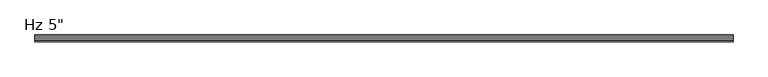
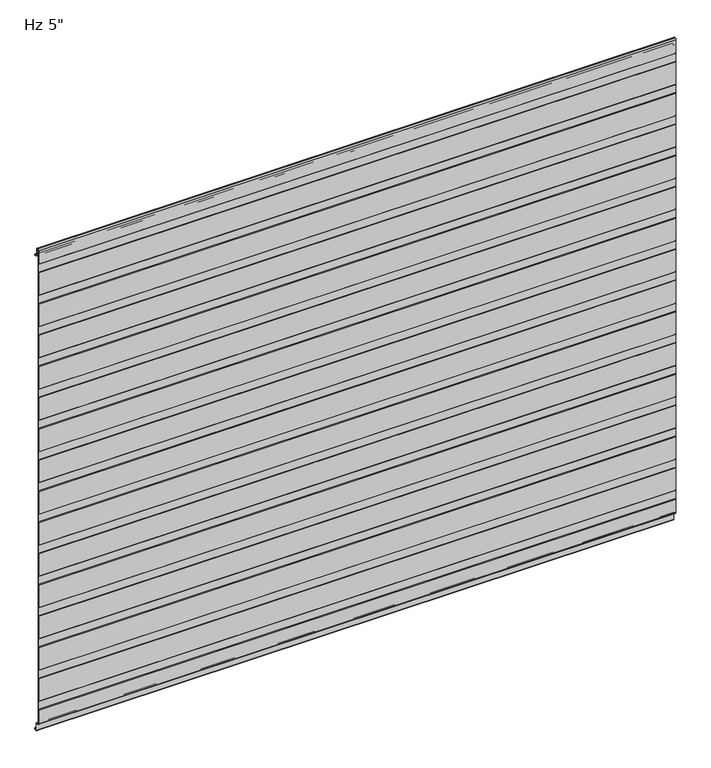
"""IFC4 building model written with IfcOpenShell, lengths in millimetres: plate geometry."""

from ifc_helpers import new_model, si_unit, frame, origin, place, context, project, spatial, polyline, circle_curve, source, transform, mapped, element, save
from ifc_brep_helpers import plane_surface, cylinder_surface, revolved_surface, advanced_brep


def plate_da2054d2(model_context):
    return source(origin(), model_context, "Body", "AdvancedBrep", [
        advanced_brep(
        [(-730.0, -127.0, 966.9508592), (-730.0, -127.0, 1021.5303137), (-730.0, -125.8088405, 1022.6028385), (-730.0, -125.8088405, 1041.5009546), (-730.0, -127.0, 1042.5734794), (-730.0, -127.0, 1097.152934), (-730.0, -125.8088405, 1098.2254588), (-730.0, -125.8088405, 1117.1235749), (-730.0, -126.9999956, 1118.1960958), (-730.0, -126.9999956, 1150.8100652), (-730.0, -124.0227271, 1153.7873337), (-730.0, -122.9806285, 1153.7873337), (-730.0, -120.00336, 1150.8100652), (-730.0, -120.00336, 1136.6216801), (-730.0, -118.4154834, 1135.0338036), (-730.0, -114.0950653, 1135.0338036), (-730.0, -112.5065979, 1133.3929042), (-730.0, -112.5065979, 1131.0482432), (-730.0, -113.5060718, 1131.0482432), (-730.0, -113.5060718, 1133.4253365), (-730.0, -114.0950653, 1134.0338037), (-730.0, -118.4154834, 1134.0338037), (-730.0, -121.00336, 1136.6216801), (-730.0, -121.00336, 1150.8100652), (-730.0, -122.9806285, 1152.7873337), (-730.0, -124.0227271, 1152.7873337), (-730.0, -125.9999956, 1150.8100652), (-730.0, -125.9999956, 1118.6385351), (-730.0, -124.8088405, 1117.5660142), (-730.0, -124.8088405, 1097.7830195), (-730.0, -126.0, 1096.7104947), (-730.0, -126.0, 1043.0159187), (-730.0, -124.8088405, 1041.9433939), (-730.0, -124.8088405, 1022.1603992), (-730.0, -126.0, 1021.0878744), (-730.0, -126.0, 967.3932985), (-730.0, -124.8088405, 966.3207736), (-730.0, -124.8088405, 946.537779), (-730.0, -126.0, 945.4652541), (-730.0, -126.0, 891.7706782), (-730.0, -124.8088405, 890.6981534), (-730.0, -124.8088405, 870.9151587), (-730.0, -126.0, 869.8426339), (-730.0, -126.0, 816.148058), (-730.0, -124.8088405, 815.0755331), (-730.0, -124.8088405, 795.2925384), (-730.0, -126.0, 794.2200136), (-730.0, -126.0, 740.5254377), (-730.0, -124.8088405, 739.4529129), (-730.0, -124.8088405, 719.6699182), (-730.0, -126.0, 718.5973933), (-730.0, -126.0, 664.9028174), (-730.0, -124.8088405, 663.8302926), (-730.0, -124.8088405, 644.0472979), (-730.0, -126.0, 642.9747731), (-730.0, -126.0, 589.2801972), (-730.0, -124.8088405, 588.2076723), (-730.0, -124.8088405, 568.4246776), (-730.0, -126.0, 567.3521528), (-730.0, -126.0, 513.6575769), (-730.0, -124.8088405, 512.5850521), (-730.0, -124.8088405, 492.8020574), (-730.0, -126.0, 491.7295325), (-730.0, -126.0, 438.0349566), (-730.0, -124.8088405, 436.9624318), (-730.0, -124.8088405, 417.1794371), (-730.0, -126.0, 416.1069123), (-730.0, -126.0, 362.4123364), (-730.0, -124.8088405, 361.3398115), (-730.0, -124.8088405, 341.5568169), (-730.0, -126.0, 340.484292), (-730.0, -126.0, 286.7897161), (-730.0, -124.8088405, 285.7171913), (-730.0, -124.8088405, 265.9341966), (-730.0, -126.0, 264.8616718), (-730.0, -126.0, 211.1670958), (-730.0, -124.8088405, 210.094571), (-730.0, -124.8088405, 190.3115763), (-730.0, -126.0, 189.2390515), (-730.0, -126.0, 135.5444756), (-730.0, -124.8088405, 134.4719507), (-730.0, -124.8088405, 114.6889561), (-730.0, -126.0, 113.6164312), (-730.0, -126.0, 59.9218553), (-730.0, -124.8088405, 58.8493305), (-730.0, -124.8088405, 39.0663358), (-730.0, -126.0, 37.993811), (-730.0, -126.0, 5.82722), (-730.0, -124.0227096, 3.8499526), (-730.0, -121.7308258, 3.8499526), (-730.0, -117.7535573, -0.1273159), (-730.0, -117.7535573, -15.7237419), (-730.0, -117.1656807, -16.3116185), (-730.0, -114.094132, -16.3116185), (-730.0, -113.5062555, -15.7237419), (-730.0, -113.5062555, -13.3687064), (-730.0, -112.5062555, -13.3687064), (-730.0, -112.5062555, -15.7237419), (-730.0, -114.094132, -17.3116185), (-730.0, -117.1656807, -17.3116185), (-730.0, -118.7535573, -15.7237419), (-730.0, -118.7535573, -0.1273159), (-730.0, -121.7308258, 2.8499526), (-730.0, -124.0227096, 2.8499526), (-730.0, -126.9999782, 5.8272193), (-730.0, -127.0, 38.4362503), (-730.0, -125.8088405, 39.5087751), (-730.0, -125.8088405, 58.4068912), (-730.0, -127.0, 59.479416), (-730.0, -127.0, 114.0588705), (-730.0, -125.8088405, 115.1313954), (-730.0, -125.8088405, 134.0295114), (-730.0, -127.0, 135.1020363), (-730.0, -127.0, 189.6814908), (-730.0, -125.8088405, 190.7540156), (-730.0, -125.8088405, 209.6521317), (-730.0, -127.0, 210.7246565), (-730.0, -127.0, 265.3041111), (-730.0, -125.8088405, 266.3766359), (-730.0, -125.8088405, 285.274752), (-730.0, -127.0, 286.3472768), (-730.0, -127.0, 340.9267313), (-730.0, -125.8088405, 341.9992562), (-730.0, -125.8088405, 360.8973722), (-730.0, -127.0, 361.9698971), (-730.0, -127.0, 416.5493516), (-730.0, -125.8088405, 417.6218764), (-730.0, -125.8088405, 436.5199925), (-730.0, -127.0, 437.5925173), (-730.0, -127.0, 492.1719719), (-730.0, -125.8088405, 493.2444967), (-730.0, -125.8088405, 512.1426127), (-730.0, -127.0, 513.2151376), (-730.0, -127.0, 567.7945921), (-730.0, -125.8088405, 568.867117), (-730.0, -125.8088405, 587.765233), (-730.0, -127.0, 588.8377578), (-730.0, -127.0, 643.4172124), (-730.0, -125.8088405, 644.4897372), (-730.0, -125.8088405, 663.3878533), (-730.0, -127.0, 664.4603781), (-730.0, -127.0, 719.0398327), (-730.0, -125.8088405, 720.1123575), (-730.0, -125.8088405, 739.0104735), (-730.0, -127.0, 740.0829984), (-730.0, -127.0, 794.6624529), (-730.0, -125.8088405, 795.7349778), (-730.0, -125.8088405, 814.6330938), (-730.0, -127.0, 815.7056186), (-730.0, -127.0, 870.2850732), (-730.0, -125.8088405, 871.357598), (-730.0, -125.8088405, 890.2557141), (-730.0, -127.0, 891.3282389), (-730.0, -127.0, 945.9076934), (-730.0, -125.8088405, 946.9802183), (-730.0, -125.8088405, 965.8783343), (730.0, -127.0, 966.9508592), (730.0, -125.8088405, 965.8783343), (730.0, -125.8088405, 946.9802183), (730.0, -127.0, 945.9076934), (730.0, -127.0, 891.3282389), (730.0, -125.8088405, 890.2557141), (730.0, -125.8088405, 871.357598), (730.0, -127.0, 870.2850732), (730.0, -127.0, 815.7056186), (730.0, -125.8088405, 814.6330938), (730.0, -125.8088405, 795.7349778), (730.0, -127.0, 794.6624529), (730.0, -127.0, 740.0829984), (730.0, -125.8088405, 739.0104735), (730.0, -125.8088405, 720.1123575), (730.0, -127.0, 719.0398327), (730.0, -127.0, 664.4603781), (730.0, -125.8088405, 663.3878533), (730.0, -125.8088405, 644.4897372), (730.0, -127.0, 643.4172124), (730.0, -127.0, 588.8377578), (730.0, -125.8088405, 587.765233), (730.0, -125.8088405, 568.867117), (730.0, -127.0, 567.7945921), (730.0, -127.0, 513.2151376), (730.0, -125.8088405, 512.1426127), (730.0, -125.8088405, 493.2444967), (730.0, -127.0, 492.1719719), (730.0, -127.0, 437.5925173), (730.0, -125.8088405, 436.5199925), (730.0, -125.8088405, 417.6218764), (730.0, -127.0, 416.5493516), (730.0, -127.0, 361.9698971), (730.0, -125.8088405, 360.8973722), (730.0, -125.8088405, 341.9992562), (730.0, -127.0, 340.9267313), (730.0, -127.0, 286.3472768), (730.0, -125.8088405, 285.274752), (730.0, -125.8088405, 266.3766359), (730.0, -127.0, 265.3041111), (730.0, -127.0, 210.7246565), (730.0, -125.8088405, 209.6521317), (730.0, -125.8088405, 190.7540156), (730.0, -127.0, 189.6814908), (730.0, -127.0, 135.1020363), (730.0, -125.8088405, 134.0295114), (730.0, -125.8088405, 115.1313954), (730.0, -127.0, 114.0588705), (730.0, -127.0, 59.479416), (730.0, -125.8088405, 58.4068912), (730.0, -125.8088405, 39.5087751), (730.0, -127.0, 38.4362503), (730.0, -127.0, 5.8272193), (730.0, -124.0227096, 2.8499526), (730.0, -121.7308258, 2.8499526), (730.0, -118.7535573, -0.1273159), (730.0, -118.7535573, -15.7237419), (730.0, -117.1656807, -17.3116185), (730.0, -114.094132, -17.3116185), (730.0, -112.5062555, -15.7237419), (730.0, -112.5062555, -13.3687064), (730.0, -113.5062555, -13.3687064), (730.0, -113.5062555, -15.7237419), (730.0, -114.094132, -16.3116185), (730.0, -117.1656807, -16.3116185), (730.0, -117.7535573, -15.7237419), (730.0, -117.7535573, -0.1273159), (730.0, -121.7308258, 3.8499526), (730.0, -124.0227096, 3.8499526), (730.0, -125.9999782, 5.82722), (730.0, -126.0, 37.993811), (730.0, -124.8088405, 39.0663358), (730.0, -124.8088405, 58.8493305), (730.0, -126.0, 59.9218553), (730.0, -126.0, 113.6164312), (730.0, -124.8088405, 114.6889561), (730.0, -124.8088405, 134.4719507), (730.0, -126.0, 135.5444756), (730.0, -126.0, 189.2390515), (730.0, -124.8088405, 190.3115763), (730.0, -124.8088405, 210.094571), (730.0, -126.0, 211.1670958), (730.0, -126.0, 264.8616718), (730.0, -124.8088405, 265.9341966), (730.0, -124.8088405, 285.7171913), (730.0, -126.0, 286.7897161), (730.0, -126.0, 340.484292), (730.0, -124.8088405, 341.5568169), (730.0, -124.8088405, 361.3398115), (730.0, -126.0, 362.4123364), (730.0, -126.0, 416.1069123), (730.0, -124.8088405, 417.1794371), (730.0, -124.8088405, 436.9624318), (730.0, -126.0, 438.0349566), (730.0, -126.0, 491.7295325), (730.0, -124.8088405, 492.8020574), (730.0, -124.8088405, 512.5850521), (730.0, -126.0, 513.6575769), (730.0, -126.0, 567.3521528), (730.0, -124.8088405, 568.4246776), (730.0, -124.8088405, 588.2076723), (730.0, -126.0, 589.2801972), (730.0, -126.0, 642.9747731), (730.0, -124.8088405, 644.0472979), (730.0, -124.8088405, 663.8302926), (730.0, -126.0, 664.9028174), (730.0, -126.0, 718.5973933), (730.0, -124.8088405, 719.6699182), (730.0, -124.8088405, 739.4529129), (730.0, -126.0, 740.5254377), (730.0, -126.0, 794.2200136), (730.0, -124.8088405, 795.2925384), (730.0, -124.8088405, 815.0755331), (730.0, -126.0, 816.148058), (730.0, -126.0, 869.8426339), (730.0, -124.8088405, 870.9151587), (730.0, -124.8088405, 890.6981534), (730.0, -126.0, 891.7706782), (730.0, -126.0, 945.4652541), (730.0, -124.8088405, 946.537779), (730.0, -124.8088405, 966.3207736), (730.0, -126.0, 967.3932985), (730.0, -126.0, 1021.0878744), (730.0, -124.8088405, 1022.1603992), (730.0, -124.8088405, 1041.9433939), (730.0, -126.0, 1043.0159187), (730.0, -126.0, 1096.7104947), (730.0, -124.8088405, 1097.7830195), (730.0, -124.8088405, 1117.5660142), (730.0, -125.9999956, 1118.6385351), (730.0, -125.9999956, 1150.8100652), (730.0, -124.0227271, 1152.7873337), (730.0, -122.9806285, 1152.7873337), (730.0, -121.00336, 1150.8100652), (730.0, -121.00336, 1136.6216801), (730.0, -118.4154834, 1134.0338036), (730.0, -114.0950653, 1134.0338037), (730.0, -113.5060718, 1133.4253365), (730.0, -113.5060718, 1131.0482432), (730.0, -112.5065979, 1131.0482432), (730.0, -112.5065979, 1133.3929042), (730.0, -114.0950653, 1135.0338037), (730.0, -118.4154834, 1135.0338036), (730.0, -120.00336, 1136.6216801), (730.0, -120.00336, 1150.8100652), (730.0, -122.9806285, 1153.7873337), (730.0, -124.0227271, 1153.7873337), (730.0, -126.9999956, 1150.8100652), (730.0, -126.9999956, 1118.1960958), (730.0, -125.8088405, 1117.1235749), (730.0, -125.8088405, 1098.2254588), (730.0, -127.0, 1097.152934), (730.0, -127.0, 1042.5734794), (730.0, -125.8088405, 1041.5009546), (730.0, -125.8088405, 1022.6028385), (730.0, -127.0, 1021.5303137)],
        [
            (0, 1),
            (1, 2),
            (2, 3),
            (3, 4),
            (4, 5),
            (5, 6),
            (6, 7),
            (7, 8),
            (8, 9),
            (9, 10, circle_curve(frame((-730.0, -124.0227271, 1150.8100652), z_axis=(-1.0, 0.0, 0.0), x_axis=(0.0, 0.0, -1.0)), 2.9772685)),
            (10, 11),
            (11, 12, circle_curve(frame((-730.0, -122.9806285, 1150.8100652), z_axis=(-1.0, 0.0, 0.0), x_axis=(0.0, 0.0, -1.0)), 2.9772685)),
            (12, 13),
            (13, 14, circle_curve(frame((-730.0, -118.4154834, 1136.6216801), z_axis=(1.0, 0.0, 0.0), x_axis=(0.0, 0.0, -1.0)), 1.5878765)),
            (14, 15),
            (15, 16, circle_curve(frame((-730.0, -114.0950653, 1133.4444985), z_axis=(-1.0, 0.0, 0.0), x_axis=(0.0, 0.0, -1.0)), 1.5893052)),
            (16, 17),
            (17, 18),
            (18, 19),
            (19, 20, circle_curve(frame((-730.0, -114.0950653, 1133.4444985), z_axis=(1.0, 0.0, 0.0), x_axis=(0.0, 0.0, -1.0)), 0.5893052)),
            (20, 21),
            (21, 22, circle_curve(frame((-730.0, -118.4154834, 1136.6216801), z_axis=(-1.0, 0.0, 0.0), x_axis=(0.0, 0.0, -1.0)), 2.5878765)),
            (22, 23),
            (23, 24, circle_curve(frame((-730.0, -122.9806285, 1150.8100652), z_axis=(1.0, 0.0, 0.0), x_axis=(0.0, 0.0, -1.0)), 1.9772685)),
            (24, 25),
            (25, 26, circle_curve(frame((-730.0, -124.0227271, 1150.8100652), z_axis=(1.0, 0.0, 0.0), x_axis=(0.0, 0.0, -1.0)), 1.9772685)),
            (26, 27),
            (27, 28),
            (28, 29),
            (29, 30),
            (30, 31),
            (31, 32),
            (32, 33),
            (33, 34),
            (34, 35),
            (35, 36),
            (36, 37),
            (37, 38),
            (38, 39),
            (39, 40),
            (40, 41),
            (41, 42),
            (42, 43),
            (43, 44),
            (44, 45),
            (45, 46),
            (46, 47),
            (47, 48),
            (48, 49),
            (49, 50),
            (50, 51),
            (51, 52),
            (52, 53),
            (53, 54),
            (54, 55),
            (55, 56),
            (56, 57),
            (57, 58),
            (58, 59),
            (59, 60),
            (60, 61),
            (61, 62),
            (62, 63),
            (63, 64),
            (64, 65),
            (65, 66),
            (66, 67),
            (67, 68),
            (68, 69),
            (69, 70),
            (70, 71),
            (71, 72),
            (72, 73),
            (73, 74),
            (74, 75),
            (75, 76),
            (76, 77),
            (77, 78),
            (78, 79),
            (79, 80),
            (80, 81),
            (81, 82),
            (82, 83),
            (83, 84),
            (84, 85),
            (85, 86),
            (86, 87),
            (87, 88, circle_curve(frame((-730.0, -124.0227096, 5.8272212), z_axis=(1.0, 0.0, 0.0), x_axis=(0.0, 0.0, -1.0)), 1.9772685)),
            (88, 89),
            (89, 90, circle_curve(frame((-730.0, -121.7308258, -0.1273159), z_axis=(-1.0, 0.0, 0.0), x_axis=(0.0, 0.0, -1.0)), 3.9772685)),
            (90, 91),
            (91, 92, circle_curve(frame((-730.0, -117.1656807, -15.7237419), z_axis=(1.0, 0.0, 0.0), x_axis=(0.0, 0.0, -1.0)), 0.5878765)),
            (92, 93),
            (93, 94, circle_curve(frame((-730.0, -114.094132, -15.7237419), z_axis=(1.0, 0.0, 0.0), x_axis=(0.0, 0.0, -1.0)), 0.5878765)),
            (94, 95),
            (95, 96),
            (96, 97),
            (97, 98, circle_curve(frame((-730.0, -114.094132, -15.7237419), z_axis=(-1.0, 0.0, 0.0), x_axis=(0.0, 0.0, -1.0)), 1.5878765)),
            (98, 99),
            (99, 100, circle_curve(frame((-730.0, -117.1656807, -15.7237419), z_axis=(-1.0, 0.0, 0.0), x_axis=(0.0, 0.0, -1.0)), 1.5878765)),
            (100, 101),
            (101, 102, circle_curve(frame((-730.0, -121.7308258, -0.1273159), z_axis=(1.0, 0.0, 0.0), x_axis=(0.0, 0.0, -1.0)), 2.9772685)),
            (102, 103),
            (103, 104, circle_curve(frame((-730.0, -124.0227096, 5.8272211), z_axis=(-1.0, 0.0, 0.0), x_axis=(0.0, 0.0, -1.0)), 2.9772685)),
            (104, 105),
            (105, 106),
            (106, 107),
            (107, 108),
            (108, 109),
            (109, 110),
            (110, 111),
            (111, 112),
            (112, 113),
            (113, 114),
            (114, 115),
            (115, 116),
            (116, 117),
            (117, 118),
            (118, 119),
            (119, 120),
            (120, 121),
            (121, 122),
            (122, 123),
            (123, 124),
            (124, 125),
            (125, 126),
            (126, 127),
            (127, 128),
            (128, 129),
            (129, 130),
            (130, 131),
            (131, 132),
            (132, 133),
            (133, 134),
            (134, 135),
            (135, 136),
            (136, 137),
            (137, 138),
            (138, 139),
            (139, 140),
            (140, 141),
            (141, 142),
            (142, 143),
            (143, 144),
            (144, 145),
            (145, 146),
            (146, 147),
            (147, 148),
            (148, 149),
            (149, 150),
            (150, 151),
            (151, 152),
            (152, 153),
            (153, 154),
            (154, 155),
            (155, 0),
            (156, 157),
            (157, 158),
            (158, 159),
            (159, 160),
            (160, 161),
            (161, 162),
            (162, 163),
            (163, 164),
            (164, 165),
            (165, 166),
            (166, 167),
            (167, 168),
            (168, 169),
            (169, 170),
            (170, 171),
            (171, 172),
            (172, 173),
            (173, 174),
            (174, 175),
            (175, 176),
            (176, 177),
            (177, 178),
            (178, 179),
            (179, 180),
            (180, 181),
            (181, 182),
            (182, 183),
            (183, 184),
            (184, 185),
            (185, 186),
            (186, 187),
            (187, 188),
            (188, 189),
            (189, 190),
            (190, 191),
            (191, 192),
            (192, 193),
            (193, 194),
            (194, 195),
            (195, 196),
            (196, 197),
            (197, 198),
            (198, 199),
            (199, 200),
            (200, 201),
            (201, 202),
            (202, 203),
            (203, 204),
            (204, 205),
            (205, 206),
            (206, 207),
            (207, 208),
            (208, 209, circle_curve(frame((730.0, -124.0227096, 5.8272211), z_axis=(1.0, 0.0, 0.0), x_axis=(0.0, 0.0, -1.0)), 2.9772685)),
            (209, 210),
            (210, 211, circle_curve(frame((730.0, -121.7308258, -0.1273159), z_axis=(-1.0, 0.0, 0.0), x_axis=(0.0, 0.0, -1.0)), 2.9772685)),
            (211, 212),
            (212, 213, circle_curve(frame((730.0, -117.1656807, -15.7237419), z_axis=(1.0, 0.0, 0.0), x_axis=(0.0, 0.0, -1.0)), 1.5878765)),
            (213, 214),
            (214, 215, circle_curve(frame((730.0, -114.094132, -15.7237419), z_axis=(1.0, 0.0, 0.0), x_axis=(0.0, 0.0, -1.0)), 1.5878765)),
            (215, 216),
            (216, 217),
            (217, 218),
            (218, 219, circle_curve(frame((730.0, -114.094132, -15.7237419), z_axis=(-1.0, 0.0, 0.0), x_axis=(0.0, 0.0, -1.0)), 0.5878765)),
            (219, 220),
            (220, 221, circle_curve(frame((730.0, -117.1656807, -15.7237419), z_axis=(-1.0, 0.0, 0.0), x_axis=(0.0, 0.0, -1.0)), 0.5878765)),
            (221, 222),
            (222, 223, circle_curve(frame((730.0, -121.7308258, -0.1273159), z_axis=(1.0, 0.0, 0.0), x_axis=(0.0, 0.0, -1.0)), 3.9772685)),
            (223, 224),
            (224, 225, circle_curve(frame((730.0, -124.0227096, 5.8272212), z_axis=(-1.0, 0.0, 0.0), x_axis=(0.0, 0.0, -1.0)), 1.9772685)),
            (225, 226),
            (226, 227),
            (227, 228),
            (228, 229),
            (229, 230),
            (230, 231),
            (231, 232),
            (232, 233),
            (233, 234),
            (234, 235),
            (235, 236),
            (236, 237),
            (237, 238),
            (238, 239),
            (239, 240),
            (240, 241),
            (241, 242),
            (242, 243),
            (243, 244),
            (244, 245),
            (245, 246),
            (246, 247),
            (247, 248),
            (248, 249),
            (249, 250),
            (250, 251),
            (251, 252),
            (252, 253),
            (253, 254),
            (254, 255),
            (255, 256),
            (256, 257),
            (257, 258),
            (258, 259),
            (259, 260),
            (260, 261),
            (261, 262),
            (262, 263),
            (263, 264),
            (264, 265),
            (265, 266),
            (266, 267),
            (267, 268),
            (268, 269),
            (269, 270),
            (270, 271),
            (271, 272),
            (272, 273),
            (273, 274),
            (274, 275),
            (275, 276),
            (276, 277),
            (277, 278),
            (278, 279),
            (279, 280),
            (280, 281),
            (281, 282),
            (282, 283),
            (283, 284),
            (284, 285),
            (285, 286),
            (286, 287, circle_curve(frame((730.0, -124.0227271, 1150.8100652), z_axis=(-1.0, 0.0, 0.0), x_axis=(0.0, 0.0, -1.0)), 1.9772685)),
            (287, 288),
            (288, 289, circle_curve(frame((730.0, -122.9806285, 1150.8100652), z_axis=(-1.0, 0.0, 0.0), x_axis=(0.0, 0.0, -1.0)), 1.9772685)),
            (289, 290),
            (290, 291, circle_curve(frame((730.0, -118.4154834, 1136.6216801), z_axis=(1.0, 0.0, 0.0), x_axis=(0.0, 0.0, -1.0)), 2.5878765)),
            (291, 292),
            (292, 293, circle_curve(frame((730.0, -114.0950653, 1133.4444985), z_axis=(-1.0, 0.0, 0.0), x_axis=(0.0, 0.0, -1.0)), 0.5893052)),
            (293, 294),
            (294, 295),
            (295, 296),
            (296, 297, circle_curve(frame((730.0, -114.0950653, 1133.4444985), z_axis=(1.0, 0.0, 0.0), x_axis=(0.0, 0.0, -1.0)), 1.5893052)),
            (297, 298),
            (298, 299, circle_curve(frame((730.0, -118.4154834, 1136.6216801), z_axis=(-1.0, 0.0, 0.0), x_axis=(0.0, 0.0, -1.0)), 1.5878765)),
            (299, 300),
            (300, 301, circle_curve(frame((730.0, -122.9806285, 1150.8100652), z_axis=(1.0, 0.0, 0.0), x_axis=(0.0, 0.0, -1.0)), 2.9772685)),
            (301, 302),
            (302, 303, circle_curve(frame((730.0, -124.0227271, 1150.8100652), z_axis=(1.0, 0.0, 0.0), x_axis=(0.0, 0.0, -1.0)), 2.9772685)),
            (303, 304),
            (304, 305),
            (305, 306),
            (306, 307),
            (307, 308),
            (308, 309),
            (309, 310),
            (310, 311),
            (311, 156),
            (155, 157),
            (156, 0),
            (154, 158),
            (153, 159),
            (152, 160),
            (151, 161),
            (150, 162),
            (149, 163),
            (148, 164),
            (147, 165),
            (146, 166),
            (145, 167),
            (144, 168),
            (143, 169),
            (142, 170),
            (141, 171),
            (140, 172),
            (139, 173),
            (138, 174),
            (137, 175),
            (136, 176),
            (135, 177),
            (134, 178),
            (133, 179),
            (132, 180),
            (131, 181),
            (130, 182),
            (129, 183),
            (128, 184),
            (127, 185),
            (126, 186),
            (125, 187),
            (124, 188),
            (123, 189),
            (122, 190),
            (121, 191),
            (120, 192),
            (119, 193),
            (118, 194),
            (117, 195),
            (116, 196),
            (115, 197),
            (114, 198),
            (113, 199),
            (112, 200),
            (111, 201),
            (110, 202),
            (109, 203),
            (108, 204),
            (107, 205),
            (106, 206),
            (105, 207),
            (104, 208),
            (103, 209),
            (102, 210),
            (101, 211),
            (100, 212),
            (99, 213),
            (98, 214),
            (97, 215),
            (96, 216),
            (95, 217),
            (94, 218),
            (93, 219),
            (92, 220),
            (91, 221),
            (90, 222),
            (89, 223),
            (88, 224),
            (87, 225),
            (86, 226),
            (85, 227),
            (84, 228),
            (83, 229),
            (82, 230),
            (81, 231),
            (80, 232),
            (79, 233),
            (78, 234),
            (77, 235),
            (76, 236),
            (75, 237),
            (74, 238),
            (73, 239),
            (72, 240),
            (71, 241),
            (70, 242),
            (69, 243),
            (68, 244),
            (67, 245),
            (66, 246),
            (65, 247),
            (64, 248),
            (63, 249),
            (62, 250),
            (61, 251),
            (60, 252),
            (59, 253),
            (58, 254),
            (57, 255),
            (56, 256),
            (55, 257),
            (54, 258),
            (53, 259),
            (52, 260),
            (51, 261),
            (50, 262),
            (49, 263),
            (48, 264),
            (47, 265),
            (46, 266),
            (45, 267),
            (44, 268),
            (43, 269),
            (42, 270),
            (41, 271),
            (40, 272),
            (39, 273),
            (38, 274),
            (37, 275),
            (36, 276),
            (35, 277),
            (34, 278),
            (33, 279),
            (32, 280),
            (31, 281),
            (30, 282),
            (29, 283),
            (28, 284),
            (27, 285),
            (26, 286),
            (25, 287),
            (24, 288),
            (23, 289),
            (22, 290),
            (21, 291),
            (20, 292),
            (19, 293),
            (18, 294),
            (17, 295),
            (16, 296),
            (15, 297),
            (14, 298),
            (13, 299),
            (12, 300),
            (11, 301),
            (10, 302),
            (9, 303),
            (8, 304),
            (7, 305),
            (6, 306),
            (5, 307),
            (4, 308),
            (3, 309),
            (2, 310),
            (1, 311),
        ],
        [
            plane_surface(frame((-730.0, -127.0, 576.2625), z_axis=(-1.0, 0.0, 0.0), x_axis=(0.0, -1.0, 0.0))),
            plane_surface(frame((730.0, -127.0, 576.2625), z_axis=(1.0, 0.0, 0.0), x_axis=(0.0, -1.0, 0.0))),
            plane_surface(frame((-730.0, -127.0, 966.9508592), z_axis=(0.0, -0.6691306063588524, -0.7431448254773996), x_axis=(1.0, 0.0, 0.0))),
            plane_surface(frame((-730.0, -125.8088405, 965.8783343), z_axis=(0.0, -1.0, 0.0), x_axis=(1.0, 0.0, 0.0))),
            plane_surface(frame((-730.0, -125.8088405, 946.9802183), z_axis=(0.0, -0.6691306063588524, 0.7431448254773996), x_axis=(1.0, 0.0, 0.0))),
            plane_surface(frame((-730.0, -127.0, 945.9076934), z_axis=(0.0, -1.0, 0.0), x_axis=(1.0, 0.0, 0.0))),
            plane_surface(frame((-730.0, -127.0, 891.3282389), z_axis=(0.0, -0.6691306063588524, -0.7431448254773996), x_axis=(1.0, 0.0, 0.0))),
            plane_surface(frame((-730.0, -125.8088405, 890.2557141), z_axis=(0.0, -1.0, 0.0), x_axis=(1.0, 0.0, 0.0))),
            plane_surface(frame((-730.0, -125.8088405, 871.357598), z_axis=(0.0, -0.6691306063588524, 0.7431448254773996), x_axis=(1.0, 0.0, 0.0))),
            plane_surface(frame((-730.0, -127.0, 870.2850732), z_axis=(0.0, -1.0, 0.0), x_axis=(1.0, 0.0, 0.0))),
            plane_surface(frame((-730.0, -127.0, 815.7056186), z_axis=(0.0, -0.6691306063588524, -0.7431448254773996), x_axis=(1.0, 0.0, 0.0))),
            plane_surface(frame((-730.0, -125.8088405, 814.6330938), z_axis=(0.0, -1.0, 0.0), x_axis=(1.0, 0.0, 0.0))),
            plane_surface(frame((-730.0, -125.8088405, 795.7349778), z_axis=(0.0, -0.6691306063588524, 0.7431448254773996), x_axis=(1.0, 0.0, 0.0))),
            plane_surface(frame((-730.0, -127.0, 794.6624529), z_axis=(0.0, -1.0, 0.0), x_axis=(1.0, 0.0, 0.0))),
            plane_surface(frame((-730.0, -127.0, 740.0829984), z_axis=(0.0, -0.6691306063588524, -0.7431448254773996), x_axis=(1.0, 0.0, 0.0))),
            plane_surface(frame((-730.0, -125.8088405, 739.0104735), z_axis=(0.0, -1.0, 0.0), x_axis=(1.0, 0.0, 0.0))),
            plane_surface(frame((-730.0, -125.8088405, 720.1123575), z_axis=(0.0, -0.6691306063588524, 0.7431448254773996), x_axis=(1.0, 0.0, 0.0))),
            plane_surface(frame((-730.0, -127.0, 719.0398327), z_axis=(0.0, -1.0, 0.0), x_axis=(1.0, 0.0, 0.0))),
            plane_surface(frame((-730.0, -127.0, 664.4603781), z_axis=(0.0, -0.6691306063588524, -0.7431448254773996), x_axis=(1.0, 0.0, 0.0))),
            plane_surface(frame((-730.0, -125.8088405, 663.3878533), z_axis=(0.0, -1.0, 0.0), x_axis=(1.0, 0.0, 0.0))),
            plane_surface(frame((-730.0, -125.8088405, 644.4897372), z_axis=(0.0, -0.6691306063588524, 0.7431448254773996), x_axis=(1.0, 0.0, 0.0))),
            plane_surface(frame((-730.0, -127.0, 643.4172124), z_axis=(0.0, -1.0, 0.0), x_axis=(1.0, 0.0, 0.0))),
            plane_surface(frame((-730.0, -127.0, 588.8377578), z_axis=(0.0, -0.6691306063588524, -0.7431448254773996), x_axis=(1.0, 0.0, 0.0))),
            plane_surface(frame((-730.0, -125.8088405, 587.765233), z_axis=(0.0, -1.0, 0.0), x_axis=(1.0, 0.0, 0.0))),
            plane_surface(frame((-730.0, -125.8088405, 568.867117), z_axis=(0.0, -0.6691306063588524, 0.7431448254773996), x_axis=(1.0, 0.0, 0.0))),
            plane_surface(frame((-730.0, -127.0, 567.7945921), z_axis=(0.0, -1.0, 0.0), x_axis=(1.0, 0.0, 0.0))),
            plane_surface(frame((-730.0, -127.0, 513.2151376), z_axis=(0.0, -0.6691306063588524, -0.7431448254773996), x_axis=(1.0, 0.0, 0.0))),
            plane_surface(frame((-730.0, -125.8088405, 512.1426127), z_axis=(0.0, -1.0, 0.0), x_axis=(1.0, 0.0, 0.0))),
            plane_surface(frame((-730.0, -125.8088405, 493.2444967), z_axis=(0.0, -0.6691306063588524, 0.7431448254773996), x_axis=(1.0, 0.0, 0.0))),
            plane_surface(frame((-730.0, -127.0, 492.1719719), z_axis=(0.0, -1.0, 0.0), x_axis=(1.0, 0.0, 0.0))),
            plane_surface(frame((-730.0, -127.0, 437.5925173), z_axis=(0.0, -0.6691306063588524, -0.7431448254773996), x_axis=(1.0, 0.0, 0.0))),
            plane_surface(frame((-730.0, -125.8088405, 436.5199925), z_axis=(0.0, -1.0, 0.0), x_axis=(1.0, 0.0, 0.0))),
            plane_surface(frame((-730.0, -125.8088405, 417.6218764), z_axis=(0.0, -0.6691306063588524, 0.7431448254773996), x_axis=(1.0, 0.0, 0.0))),
            plane_surface(frame((-730.0, -127.0, 416.5493516), z_axis=(0.0, -1.0, 0.0), x_axis=(1.0, 0.0, 0.0))),
            plane_surface(frame((-730.0, -127.0, 361.9698971), z_axis=(0.0, -0.6691306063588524, -0.7431448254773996), x_axis=(1.0, 0.0, 0.0))),
            plane_surface(frame((-730.0, -125.8088405, 360.8973722), z_axis=(0.0, -1.0, 0.0), x_axis=(1.0, 0.0, 0.0))),
            plane_surface(frame((-730.0, -125.8088405, 341.9992562), z_axis=(0.0, -0.6691306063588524, 0.7431448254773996), x_axis=(1.0, 0.0, 0.0))),
            plane_surface(frame((-730.0, -127.0, 340.9267313), z_axis=(0.0, -1.0, 0.0), x_axis=(1.0, 0.0, 0.0))),
            plane_surface(frame((-730.0, -127.0, 286.3472768), z_axis=(0.0, -0.6691306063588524, -0.7431448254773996), x_axis=(1.0, 0.0, 0.0))),
            plane_surface(frame((-730.0, -125.8088405, 285.274752), z_axis=(0.0, -1.0, 0.0), x_axis=(1.0, 0.0, 0.0))),
            plane_surface(frame((-730.0, -125.8088405, 266.3766359), z_axis=(0.0, -0.6691306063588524, 0.7431448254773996), x_axis=(1.0, 0.0, 0.0))),
            plane_surface(frame((-730.0, -127.0, 265.3041111), z_axis=(0.0, -1.0, 0.0), x_axis=(1.0, 0.0, 0.0))),
            plane_surface(frame((-730.0, -127.0, 210.7246565), z_axis=(0.0, -0.6691306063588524, -0.7431448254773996), x_axis=(1.0, 0.0, 0.0))),
            plane_surface(frame((-730.0, -125.8088405, 209.6521317), z_axis=(0.0, -1.0, 0.0), x_axis=(1.0, 0.0, 0.0))),
            plane_surface(frame((-730.0, -125.8088405, 190.7540156), z_axis=(0.0, -0.6691306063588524, 0.7431448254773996), x_axis=(1.0, 0.0, 0.0))),
            plane_surface(frame((-730.0, -127.0, 189.6814908), z_axis=(0.0, -1.0, 0.0), x_axis=(1.0, 0.0, 0.0))),
            plane_surface(frame((-730.0, -127.0, 135.1020363), z_axis=(0.0, -0.6691306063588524, -0.7431448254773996), x_axis=(1.0, 0.0, 0.0))),
            plane_surface(frame((-730.0, -125.8088405, 134.0295114), z_axis=(0.0, -1.0, 0.0), x_axis=(1.0, 0.0, 0.0))),
            plane_surface(frame((-730.0, -125.8088405, 115.1313954), z_axis=(0.0, -0.6691306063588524, 0.7431448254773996), x_axis=(1.0, 0.0, 0.0))),
            plane_surface(frame((-730.0, -127.0, 114.0588705), z_axis=(0.0, -1.0, 0.0), x_axis=(1.0, 0.0, 0.0))),
            plane_surface(frame((-730.0, -127.0, 59.479416), z_axis=(0.0, -0.6691306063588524, -0.7431448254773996), x_axis=(1.0, 0.0, 0.0))),
            plane_surface(frame((-730.0, -125.8088405, 58.4068912), z_axis=(0.0, -1.0, 0.0), x_axis=(1.0, 0.0, 0.0))),
            plane_surface(frame((-730.0, -125.8088405, 39.5087751), z_axis=(0.0, -0.6691306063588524, 0.7431448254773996), x_axis=(1.0, 0.0, 0.0))),
            plane_surface(frame((-730.0, -127.0, 38.4362503), z_axis=(0.0, -1.0, 0.0), x_axis=(1.0, 0.0, 0.0))),
            cylinder_surface(frame((-730.0, -124.0227096, 5.8272211), z_axis=(-1.0, 0.0, 0.0), x_axis=(0.0, 0.0, -1.0)), 2.9772685),
            plane_surface(frame((-730.0, -124.0227096, 2.8499526), z_axis=(0.0, 0.0, -1.0), x_axis=(1.0, 0.0, 0.0))),
            revolved_surface(polyline([(730.0, -121.7308258, -3.1045844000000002), (-730.0, -121.7308258, -3.1045844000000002)]), (-730.0, -121.7308258, -0.1273159), (1.0, 0.0, 0.0)),
            plane_surface(frame((-730.0, -118.7535573, -0.1273159), z_axis=(0.0, -1.0, 0.0), x_axis=(1.0, 0.0, 0.0))),
            cylinder_surface(frame((-730.0, -117.1656807, -15.7237419), z_axis=(-1.0, 0.0, 0.0), x_axis=(0.0, 0.0, -1.0)), 1.5878765),
            plane_surface(frame((-730.0, -117.1656807, -17.3116185), z_axis=(0.0, 0.0, -1.0), x_axis=(1.0, 0.0, 0.0))),
            cylinder_surface(frame((-730.0, -114.094132, -15.7237419), z_axis=(-1.0, 0.0, 0.0), x_axis=(0.0, 0.0, -1.0)), 1.5878765),
            plane_surface(frame((-730.0, -112.5062555, -15.7237419), z_axis=(0.0, 1.0, 0.0), x_axis=(1.0, 0.0, 0.0))),
            plane_surface(frame((-730.0, -112.5062555, -13.3687064), z_axis=(0.0, 0.0, 1.0), x_axis=(1.0, 0.0, 0.0))),
            plane_surface(frame((-730.0, -113.5062555, -13.3687064), z_axis=(0.0, -1.0, 0.0), x_axis=(1.0, 0.0, 0.0))),
            revolved_surface(polyline([(730.0, -114.094132, -16.3116184), (-730.0, -114.094132, -16.3116184)]), (-730.0, -114.094132, -15.7237419), (1.0, 0.0, 0.0)),
            plane_surface(frame((-730.0, -114.094132, -16.3116185), z_axis=(0.0, 0.0, 1.0), x_axis=(1.0, 0.0, 0.0))),
            revolved_surface(polyline([(730.0, -117.1656807, -16.3116184), (-730.0, -117.1656807, -16.3116184)]), (-730.0, -117.1656807, -15.7237419), (1.0, 0.0, 0.0)),
            plane_surface(frame((-730.0, -117.7535573, -15.7237419), z_axis=(0.0, 1.0, 0.0), x_axis=(1.0, 0.0, 0.0))),
            cylinder_surface(frame((-730.0, -121.7308258, -0.1273159), z_axis=(-1.0, 0.0, 0.0), x_axis=(0.0, 0.0, -1.0)), 3.9772685),
            plane_surface(frame((-730.0, -121.7308258, 3.8499526), z_axis=(0.0, 0.0, 1.0), x_axis=(1.0, 0.0, 0.0))),
            revolved_surface(polyline([(730.0, -124.0227096, 3.8499527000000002), (-730.0, -124.0227096, 3.8499527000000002)]), (-730.0, -124.0227096, 5.8272212), (1.0, 0.0, 0.0)),
            plane_surface(frame((-730.0, -126.0, 5.82722), z_axis=(0.0, 1.0, 0.0), x_axis=(1.0, 0.0, 0.0))),
            plane_surface(frame((-730.0, -126.0, 37.993811), z_axis=(0.0, 0.6691306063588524, -0.7431448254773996), x_axis=(1.0, 0.0, 0.0))),
            plane_surface(frame((-730.0, -124.8088405, 39.0663358), z_axis=(0.0, 1.0, 0.0), x_axis=(1.0, 0.0, 0.0))),
            plane_surface(frame((-730.0, -124.8088405, 58.8493305), z_axis=(0.0, 0.6691306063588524, 0.7431448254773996), x_axis=(1.0, 0.0, 0.0))),
            plane_surface(frame((-730.0, -126.0, 59.9218553), z_axis=(0.0, 1.0, 0.0), x_axis=(1.0, 0.0, 0.0))),
            plane_surface(frame((-730.0, -126.0, 113.6164312), z_axis=(0.0, 0.6691306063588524, -0.7431448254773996), x_axis=(1.0, 0.0, 0.0))),
            plane_surface(frame((-730.0, -124.8088405, 114.6889561), z_axis=(0.0, 1.0, 0.0), x_axis=(1.0, 0.0, 0.0))),
            plane_surface(frame((-730.0, -124.8088405, 134.4719507), z_axis=(0.0, 0.6691306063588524, 0.7431448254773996), x_axis=(1.0, 0.0, 0.0))),
            plane_surface(frame((-730.0, -126.0, 135.5444756), z_axis=(0.0, 1.0, 0.0), x_axis=(1.0, 0.0, 0.0))),
            plane_surface(frame((-730.0, -126.0, 189.2390515), z_axis=(0.0, 0.6691306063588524, -0.7431448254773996), x_axis=(1.0, 0.0, 0.0))),
            plane_surface(frame((-730.0, -124.8088405, 190.3115763), z_axis=(0.0, 1.0, 0.0), x_axis=(1.0, 0.0, 0.0))),
            plane_surface(frame((-730.0, -124.8088405, 210.094571), z_axis=(0.0, 0.6691306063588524, 0.7431448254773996), x_axis=(1.0, 0.0, 0.0))),
            plane_surface(frame((-730.0, -126.0, 211.1670958), z_axis=(0.0, 1.0, 0.0), x_axis=(1.0, 0.0, 0.0))),
            plane_surface(frame((-730.0, -126.0, 264.8616718), z_axis=(0.0, 0.6691306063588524, -0.7431448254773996), x_axis=(1.0, 0.0, 0.0))),
            plane_surface(frame((-730.0, -124.8088405, 265.9341966), z_axis=(0.0, 1.0, 0.0), x_axis=(1.0, 0.0, 0.0))),
            plane_surface(frame((-730.0, -124.8088405, 285.7171913), z_axis=(0.0, 0.6691306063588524, 0.7431448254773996), x_axis=(1.0, 0.0, 0.0))),
            plane_surface(frame((-730.0, -126.0, 286.7897161), z_axis=(0.0, 1.0, 0.0), x_axis=(1.0, 0.0, 0.0))),
            plane_surface(frame((-730.0, -126.0, 340.484292), z_axis=(0.0, 0.6691306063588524, -0.7431448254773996), x_axis=(1.0, 0.0, 0.0))),
            plane_surface(frame((-730.0, -124.8088405, 341.5568169), z_axis=(0.0, 1.0, 0.0), x_axis=(1.0, 0.0, 0.0))),
            plane_surface(frame((-730.0, -124.8088405, 361.3398115), z_axis=(0.0, 0.6691306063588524, 0.7431448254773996), x_axis=(1.0, 0.0, 0.0))),
            plane_surface(frame((-730.0, -126.0, 362.4123364), z_axis=(0.0, 1.0, 0.0), x_axis=(1.0, 0.0, 0.0))),
            plane_surface(frame((-730.0, -126.0, 416.1069123), z_axis=(0.0, 0.6691306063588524, -0.7431448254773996), x_axis=(1.0, 0.0, 0.0))),
            plane_surface(frame((-730.0, -124.8088405, 417.1794371), z_axis=(0.0, 1.0, 0.0), x_axis=(1.0, 0.0, 0.0))),
            plane_surface(frame((-730.0, -124.8088405, 436.9624318), z_axis=(0.0, 0.6691306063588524, 0.7431448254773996), x_axis=(1.0, 0.0, 0.0))),
            plane_surface(frame((-730.0, -126.0, 438.0349566), z_axis=(0.0, 1.0, 0.0), x_axis=(1.0, 0.0, 0.0))),
            plane_surface(frame((-730.0, -126.0, 491.7295325), z_axis=(0.0, 0.6691306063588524, -0.7431448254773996), x_axis=(1.0, 0.0, 0.0))),
            plane_surface(frame((-730.0, -124.8088405, 492.8020574), z_axis=(0.0, 1.0, 0.0), x_axis=(1.0, 0.0, 0.0))),
            plane_surface(frame((-730.0, -124.8088405, 512.5850521), z_axis=(0.0, 0.6691306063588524, 0.7431448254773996), x_axis=(1.0, 0.0, 0.0))),
            plane_surface(frame((-730.0, -126.0, 513.6575769), z_axis=(0.0, 1.0, 0.0), x_axis=(1.0, 0.0, 0.0))),
            plane_surface(frame((-730.0, -126.0, 567.3521528), z_axis=(0.0, 0.6691306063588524, -0.7431448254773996), x_axis=(1.0, 0.0, 0.0))),
            plane_surface(frame((-730.0, -124.8088405, 568.4246776), z_axis=(0.0, 1.0, 0.0), x_axis=(1.0, 0.0, 0.0))),
            plane_surface(frame((-730.0, -124.8088405, 588.2076723), z_axis=(0.0, 0.6691306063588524, 0.7431448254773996), x_axis=(1.0, 0.0, 0.0))),
            plane_surface(frame((-730.0, -126.0, 589.2801972), z_axis=(0.0, 1.0, 0.0), x_axis=(1.0, 0.0, 0.0))),
            plane_surface(frame((-730.0, -126.0, 642.9747731), z_axis=(0.0, 0.6691306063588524, -0.7431448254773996), x_axis=(1.0, 0.0, 0.0))),
            plane_surface(frame((-730.0, -124.8088405, 644.0472979), z_axis=(0.0, 1.0, 0.0), x_axis=(1.0, 0.0, 0.0))),
            plane_surface(frame((-730.0, -124.8088405, 663.8302926), z_axis=(0.0, 0.6691306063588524, 0.7431448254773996), x_axis=(1.0, 0.0, 0.0))),
            plane_surface(frame((-730.0, -126.0, 664.9028174), z_axis=(0.0, 1.0, 0.0), x_axis=(1.0, 0.0, 0.0))),
            plane_surface(frame((-730.0, -126.0, 718.5973933), z_axis=(0.0, 0.6691306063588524, -0.7431448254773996), x_axis=(1.0, 0.0, 0.0))),
            plane_surface(frame((-730.0, -124.8088405, 719.6699182), z_axis=(0.0, 1.0, 0.0), x_axis=(1.0, 0.0, 0.0))),
            plane_surface(frame((-730.0, -124.8088405, 739.4529129), z_axis=(0.0, 0.6691306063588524, 0.7431448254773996), x_axis=(1.0, 0.0, 0.0))),
            plane_surface(frame((-730.0, -126.0, 740.5254377), z_axis=(0.0, 1.0, 0.0), x_axis=(1.0, 0.0, 0.0))),
            plane_surface(frame((-730.0, -126.0, 794.2200136), z_axis=(0.0, 0.6691306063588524, -0.7431448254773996), x_axis=(1.0, 0.0, 0.0))),
            plane_surface(frame((-730.0, -124.8088405, 795.2925384), z_axis=(0.0, 1.0, 0.0), x_axis=(1.0, 0.0, 0.0))),
            plane_surface(frame((-730.0, -124.8088405, 815.0755331), z_axis=(0.0, 0.6691306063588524, 0.7431448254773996), x_axis=(1.0, 0.0, 0.0))),
            plane_surface(frame((-730.0, -126.0, 816.148058), z_axis=(0.0, 1.0, 0.0), x_axis=(1.0, 0.0, 0.0))),
            plane_surface(frame((-730.0, -126.0, 869.8426339), z_axis=(0.0, 0.6691306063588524, -0.7431448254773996), x_axis=(1.0, 0.0, 0.0))),
            plane_surface(frame((-730.0, -124.8088405, 870.9151587), z_axis=(0.0, 1.0, 0.0), x_axis=(1.0, 0.0, 0.0))),
            plane_surface(frame((-730.0, -124.8088405, 890.6981534), z_axis=(0.0, 0.6691306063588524, 0.7431448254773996), x_axis=(1.0, 0.0, 0.0))),
            plane_surface(frame((-730.0, -126.0, 891.7706782), z_axis=(0.0, 1.0, 0.0), x_axis=(1.0, 0.0, 0.0))),
            plane_surface(frame((-730.0, -126.0, 945.4652541), z_axis=(0.0, 0.6691306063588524, -0.7431448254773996), x_axis=(1.0, 0.0, 0.0))),
            plane_surface(frame((-730.0, -124.8088405, 946.537779), z_axis=(0.0, 1.0, 0.0), x_axis=(1.0, 0.0, 0.0))),
            plane_surface(frame((-730.0, -124.8088405, 966.3207736), z_axis=(0.0, 0.6691306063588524, 0.7431448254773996), x_axis=(1.0, 0.0, 0.0))),
            plane_surface(frame((-730.0, -126.0, 967.3932985), z_axis=(0.0, 1.0, 0.0), x_axis=(1.0, 0.0, 0.0))),
            plane_surface(frame((-730.0, -126.0, 1021.0878744), z_axis=(0.0, 0.6691306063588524, -0.7431448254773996), x_axis=(1.0, 0.0, 0.0))),
            plane_surface(frame((-730.0, -124.8088405, 1022.1603992), z_axis=(0.0, 1.0, 0.0), x_axis=(1.0, 0.0, 0.0))),
            plane_surface(frame((-730.0, -124.8088405, 1041.9433939), z_axis=(0.0, 0.6691306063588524, 0.7431448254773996), x_axis=(1.0, 0.0, 0.0))),
            plane_surface(frame((-730.0, -126.0, 1043.0159187), z_axis=(0.0, 1.0, 0.0), x_axis=(1.0, 0.0, 0.0))),
            plane_surface(frame((-730.0, -126.0, 1096.7104947), z_axis=(0.0, 0.6691306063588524, -0.7431448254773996), x_axis=(1.0, 0.0, 0.0))),
            plane_surface(frame((-730.0, -124.8088405, 1097.7830195), z_axis=(0.0, 1.0, 0.0), x_axis=(1.0, 0.0, 0.0))),
            plane_surface(frame((-730.0, -124.8088405, 1117.5660142), z_axis=(0.0, 0.6691306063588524, 0.7431448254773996), x_axis=(1.0, 0.0, 0.0))),
            plane_surface(frame((-730.0, -125.9999956, 1118.6385351), z_axis=(0.0, 1.0, 0.0), x_axis=(1.0, 0.0, 0.0))),
            revolved_surface(polyline([(730.0, -124.0227271, 1148.8327967), (-730.0, -124.0227271, 1148.8327967)]), (-730.0, -124.0227271, 1150.8100652), (1.0, 0.0, 0.0)),
            plane_surface(frame((-730.0, -124.0227271, 1152.7873337), z_axis=(0.0, 0.0, -1.0), x_axis=(1.0, 0.0, 0.0))),
            revolved_surface(polyline([(730.0, -122.9806285, 1148.8327967), (-730.0, -122.9806285, 1148.8327967)]), (-730.0, -122.9806285, 1150.8100652), (1.0, 0.0, 0.0)),
            plane_surface(frame((-730.0, -121.00336, 1150.8100652), z_axis=(0.0, -1.0, 0.0), x_axis=(1.0, 0.0, 0.0))),
            cylinder_surface(frame((-730.0, -118.4154834, 1136.6216801), z_axis=(-1.0, 0.0, 0.0), x_axis=(0.0, 0.0, -1.0)), 2.5878765),
            plane_surface(frame((-730.0, -118.4154834, 1134.0338037), z_axis=(0.0, 0.0, -1.0), x_axis=(1.0, 0.0, 0.0))),
            revolved_surface(polyline([(730.0, -114.0950653, 1132.8551933), (-730.0, -114.0950653, 1132.8551933)]), (-730.0, -114.0950653, 1133.4444985), (1.0, 0.0, 0.0)),
            plane_surface(frame((-730.0, -113.5060718, 1133.4253365), z_axis=(0.0, -1.0, 0.0), x_axis=(1.0, 0.0, 0.0))),
            plane_surface(frame((-730.0, -113.5060718, 1131.0482432), z_axis=(0.0, 0.0, -1.0), x_axis=(1.0, 0.0, 0.0))),
            plane_surface(frame((-730.0, -112.5065979, 1131.0482432), z_axis=(0.0, 1.0, 0.0), x_axis=(1.0, 0.0, 0.0))),
            cylinder_surface(frame((-730.0, -114.0950653, 1133.4444985), z_axis=(-1.0, 0.0, 0.0), x_axis=(0.0, 0.0, -1.0)), 1.5893052),
            plane_surface(frame((-730.0, -114.0950653, 1135.0338036), z_axis=(0.0, 0.0, 1.0), x_axis=(1.0, 0.0, 0.0))),
            revolved_surface(polyline([(730.0, -118.4154834, 1135.0338036), (-730.0, -118.4154834, 1135.0338036)]), (-730.0, -118.4154834, 1136.6216801), (1.0, 0.0, 0.0)),
            plane_surface(frame((-730.0, -120.00336, 1136.6216801), z_axis=(0.0, 1.0, 0.0), x_axis=(1.0, 0.0, 0.0))),
            cylinder_surface(frame((-730.0, -122.9806285, 1150.8100652), z_axis=(-1.0, 0.0, 0.0), x_axis=(0.0, 0.0, -1.0)), 2.9772685),
            plane_surface(frame((-730.0, -122.9806285, 1153.7873337), z_axis=(0.0, 0.0, 1.0), x_axis=(1.0, 0.0, 0.0))),
            cylinder_surface(frame((-730.0, -124.0227271, 1150.8100652), z_axis=(-1.0, 0.0, 0.0), x_axis=(0.0, 0.0, -1.0)), 2.9772685),
            plane_surface(frame((-730.0, -126.9999956, 1150.8100652), z_axis=(0.0, -1.0, 0.0), x_axis=(1.0, 0.0, 0.0))),
            plane_surface(frame((-730.0, -126.9999956, 1118.1960958), z_axis=(0.0, -0.6691306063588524, -0.7431448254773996), x_axis=(1.0, 0.0, 0.0))),
            plane_surface(frame((-730.0, -125.8088405, 1117.1235749), z_axis=(0.0, -1.0, 0.0), x_axis=(1.0, 0.0, 0.0))),
            plane_surface(frame((-730.0, -125.8088405, 1098.2254588), z_axis=(0.0, -0.6691306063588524, 0.7431448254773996), x_axis=(1.0, 0.0, 0.0))),
            plane_surface(frame((-730.0, -127.0, 1097.152934), z_axis=(0.0, -1.0, 0.0), x_axis=(1.0, 0.0, 0.0))),
            plane_surface(frame((-730.0, -127.0, 1042.5734794), z_axis=(0.0, -0.6691306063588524, -0.7431448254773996), x_axis=(1.0, 0.0, 0.0))),
            plane_surface(frame((-730.0, -125.8088405, 1041.5009546), z_axis=(0.0, -1.0, 0.0), x_axis=(1.0, 0.0, 0.0))),
            plane_surface(frame((-730.0, -125.8088405, 1022.6028385), z_axis=(0.0, -0.6691306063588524, 0.7431448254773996), x_axis=(1.0, 0.0, 0.0))),
            plane_surface(frame((-730.0, -127.0, 1021.5303137), z_axis=(0.0, -1.0, 0.0), x_axis=(1.0, 0.0, 0.0))),
        ],
        [
            (0, [[1, 2, 3, 4, 5, 6, 7, 8, 9, 10, 11, 12, 13, 14, 15, 16, 17, 18, 19, 20, 21, 22, 23, 24, 25, 26, 27, 28, 29, 30, 31, 32, 33, 34, 35, 36, 37, 38, 39, 40, 41, 42, 43, 44, 45, 46, 47, 48, 49, 50, 51, 52, 53, 54, 55, 56, 57, 58, 59, 60, 61, 62, 63, 64, 65, 66, 67, 68, 69, 70, 71, 72, 73, 74, 75, 76, 77, 78, 79, 80, 81, 82, 83, 84, 85, 86, 87, 88, 89, 90, 91, 92, 93, 94, 95, 96, 97, 98, 99, 100, 101, 102, 103, 104, 105, 106, 107, 108, 109, 110, 111, 112, 113, 114, 115, 116, 117, 118, 119, 120, 121, 122, 123, 124, 125, 126, 127, 128, 129, 130, 131, 132, 133, 134, 135, 136, 137, 138, 139, 140, 141, 142, 143, 144, 145, 146, 147, 148, 149, 150, 151, 152, 153, 154, 155, 156]]),
            (1, [[157, 158, 159, 160, 161, 162, 163, 164, 165, 166, 167, 168, 169, 170, 171, 172, 173, 174, 175, 176, 177, 178, 179, 180, 181, 182, 183, 184, 185, 186, 187, 188, 189, 190, 191, 192, 193, 194, 195, 196, 197, 198, 199, 200, 201, 202, 203, 204, 205, 206, 207, 208, 209, 210, 211, 212, 213, 214, 215, 216, 217, 218, 219, 220, 221, 222, 223, 224, 225, 226, 227, 228, 229, 230, 231, 232, 233, 234, 235, 236, 237, 238, 239, 240, 241, 242, 243, 244, 245, 246, 247, 248, 249, 250, 251, 252, 253, 254, 255, 256, 257, 258, 259, 260, 261, 262, 263, 264, 265, 266, 267, 268, 269, 270, 271, 272, 273, 274, 275, 276, 277, 278, 279, 280, 281, 282, 283, 284, 285, 286, 287, 288, 289, 290, 291, 292, 293, 294, 295, 296, 297, 298, 299, 300, 301, 302, 303, 304, 305, 306, 307, 308, 309, 310, 311, 312]]),
            (2, [[313, -157, 314, -156]]),
            (3, [[315, -158, -313, -155]]),
            (4, [[316, -159, -315, -154]]),
            (5, [[317, -160, -316, -153]]),
            (6, [[318, -161, -317, -152]]),
            (7, [[319, -162, -318, -151]]),
            (8, [[320, -163, -319, -150]]),
            (9, [[321, -164, -320, -149]]),
            (10, [[322, -165, -321, -148]]),
            (11, [[323, -166, -322, -147]]),
            (12, [[324, -167, -323, -146]]),
            (13, [[325, -168, -324, -145]]),
            (14, [[326, -169, -325, -144]]),
            (15, [[327, -170, -326, -143]]),
            (16, [[328, -171, -327, -142]]),
            (17, [[329, -172, -328, -141]]),
            (18, [[330, -173, -329, -140]]),
            (19, [[331, -174, -330, -139]]),
            (20, [[332, -175, -331, -138]]),
            (21, [[333, -176, -332, -137]]),
            (22, [[334, -177, -333, -136]]),
            (23, [[335, -178, -334, -135]]),
            (24, [[336, -179, -335, -134]]),
            (25, [[337, -180, -336, -133]]),
            (26, [[338, -181, -337, -132]]),
            (27, [[339, -182, -338, -131]]),
            (28, [[340, -183, -339, -130]]),
            (29, [[341, -184, -340, -129]]),
            (30, [[342, -185, -341, -128]]),
            (31, [[343, -186, -342, -127]]),
            (32, [[344, -187, -343, -126]]),
            (33, [[345, -188, -344, -125]]),
            (34, [[346, -189, -345, -124]]),
            (35, [[347, -190, -346, -123]]),
            (36, [[348, -191, -347, -122]]),
            (37, [[349, -192, -348, -121]]),
            (38, [[350, -193, -349, -120]]),
            (39, [[351, -194, -350, -119]]),
            (40, [[352, -195, -351, -118]]),
            (41, [[353, -196, -352, -117]]),
            (42, [[354, -197, -353, -116]]),
            (43, [[355, -198, -354, -115]]),
            (44, [[356, -199, -355, -114]]),
            (45, [[357, -200, -356, -113]]),
            (46, [[358, -201, -357, -112]]),
            (47, [[359, -202, -358, -111]]),
            (48, [[360, -203, -359, -110]]),
            (49, [[361, -204, -360, -109]]),
            (50, [[362, -205, -361, -108]]),
            (51, [[363, -206, -362, -107]]),
            (52, [[364, -207, -363, -106]]),
            (53, [[365, -208, -364, -105]]),
            (54, [[366, -209, -365, -104]]),
            (55, [[367, -210, -366, -103]]),
            (56, [[368, -211, -367, -102]]),
            (57, [[369, -212, -368, -101]]),
            (58, [[370, -213, -369, -100]]),
            (59, [[371, -214, -370, -99]]),
            (60, [[372, -215, -371, -98]]),
            (61, [[373, -216, -372, -97]]),
            (62, [[374, -217, -373, -96]]),
            (63, [[375, -218, -374, -95]]),
            (64, [[376, -219, -375, -94]]),
            (65, [[377, -220, -376, -93]]),
            (66, [[378, -221, -377, -92]]),
            (67, [[379, -222, -378, -91]]),
            (68, [[380, -223, -379, -90]]),
            (69, [[381, -224, -380, -89]]),
            (70, [[382, -225, -381, -88]]),
            (71, [[383, -226, -382, -87]]),
            (72, [[384, -227, -383, -86]]),
            (73, [[385, -228, -384, -85]]),
            (74, [[386, -229, -385, -84]]),
            (75, [[387, -230, -386, -83]]),
            (76, [[388, -231, -387, -82]]),
            (77, [[389, -232, -388, -81]]),
            (78, [[390, -233, -389, -80]]),
            (79, [[391, -234, -390, -79]]),
            (80, [[392, -235, -391, -78]]),
            (81, [[393, -236, -392, -77]]),
            (82, [[394, -237, -393, -76]]),
            (83, [[395, -238, -394, -75]]),
            (84, [[396, -239, -395, -74]]),
            (85, [[397, -240, -396, -73]]),
            (86, [[398, -241, -397, -72]]),
            (87, [[399, -242, -398, -71]]),
            (88, [[400, -243, -399, -70]]),
            (89, [[401, -244, -400, -69]]),
            (90, [[402, -245, -401, -68]]),
            (91, [[403, -246, -402, -67]]),
            (92, [[404, -247, -403, -66]]),
            (93, [[405, -248, -404, -65]]),
            (94, [[406, -249, -405, -64]]),
            (95, [[407, -250, -406, -63]]),
            (96, [[408, -251, -407, -62]]),
            (97, [[409, -252, -408, -61]]),
            (98, [[410, -253, -409, -60]]),
            (99, [[411, -254, -410, -59]]),
            (100, [[412, -255, -411, -58]]),
            (101, [[413, -256, -412, -57]]),
            (102, [[414, -257, -413, -56]]),
            (103, [[415, -258, -414, -55]]),
            (104, [[416, -259, -415, -54]]),
            (105, [[417, -260, -416, -53]]),
            (106, [[418, -261, -417, -52]]),
            (107, [[419, -262, -418, -51]]),
            (108, [[420, -263, -419, -50]]),
            (109, [[421, -264, -420, -49]]),
            (110, [[422, -265, -421, -48]]),
            (111, [[423, -266, -422, -47]]),
            (112, [[424, -267, -423, -46]]),
            (113, [[425, -268, -424, -45]]),
            (114, [[426, -269, -425, -44]]),
            (115, [[427, -270, -426, -43]]),
            (116, [[428, -271, -427, -42]]),
            (117, [[429, -272, -428, -41]]),
            (118, [[430, -273, -429, -40]]),
            (119, [[431, -274, -430, -39]]),
            (120, [[432, -275, -431, -38]]),
            (121, [[433, -276, -432, -37]]),
            (122, [[434, -277, -433, -36]]),
            (123, [[435, -278, -434, -35]]),
            (124, [[436, -279, -435, -34]]),
            (125, [[437, -280, -436, -33]]),
            (126, [[438, -281, -437, -32]]),
            (127, [[439, -282, -438, -31]]),
            (128, [[440, -283, -439, -30]]),
            (129, [[441, -284, -440, -29]]),
            (130, [[442, -285, -441, -28]]),
            (131, [[443, -286, -442, -27]]),
            (132, [[444, -287, -443, -26]]),
            (133, [[445, -288, -444, -25]]),
            (134, [[446, -289, -445, -24]]),
            (135, [[447, -290, -446, -23]]),
            (136, [[448, -291, -447, -22]]),
            (137, [[449, -292, -448, -21]]),
            (138, [[450, -293, -449, -20]]),
            (139, [[451, -294, -450, -19]]),
            (140, [[452, -295, -451, -18]]),
            (141, [[453, -296, -452, -17]]),
            (142, [[454, -297, -453, -16]]),
            (143, [[455, -298, -454, -15]]),
            (144, [[456, -299, -455, -14]]),
            (145, [[457, -300, -456, -13]]),
            (146, [[458, -301, -457, -12]]),
            (147, [[459, -302, -458, -11]]),
            (148, [[460, -303, -459, -10]]),
            (149, [[461, -304, -460, -9]]),
            (150, [[462, -305, -461, -8]]),
            (151, [[463, -306, -462, -7]]),
            (152, [[464, -307, -463, -6]]),
            (153, [[465, -308, -464, -5]]),
            (154, [[466, -309, -465, -4]]),
            (155, [[467, -310, -466, -3]]),
            (156, [[468, -311, -467, -2]]),
            (157, [[-314, -312, -468, -1]]),
        ],
    ),
    ])


if __name__ == "__main__":
    model = new_model("IFC4")
    model_context = context("Model", 3, world=origin())
    ifc_project = project(units=[si_unit("LENGTHUNIT", "METRE", prefix="MILLI")], contexts=[model_context])
    site = spatial("IfcSite", under=ifc_project)
    building = spatial("IfcBuilding", under=site)
    placement = place(None, origin())
    plate_shape = plate_da2054d2(model_context)
    element("IfcPlate", 1, ObjectType="KIP-SLI-FLI-R19-CP-Hz-SL_SL : Hz 5\"", at=placement, inside=building, context=model_context, shape_type="MappedRepresentation", body=[
        mapped(plate_shape, transform((0.0, 0.0, 0.0), x_axis=(1.0, 0.0, 0.0), y_axis=(0.0, 1.0, 0.0), z_axis=(0.0, 0.0, 1.0))),
    ])
    save(model, "model.ifc")
